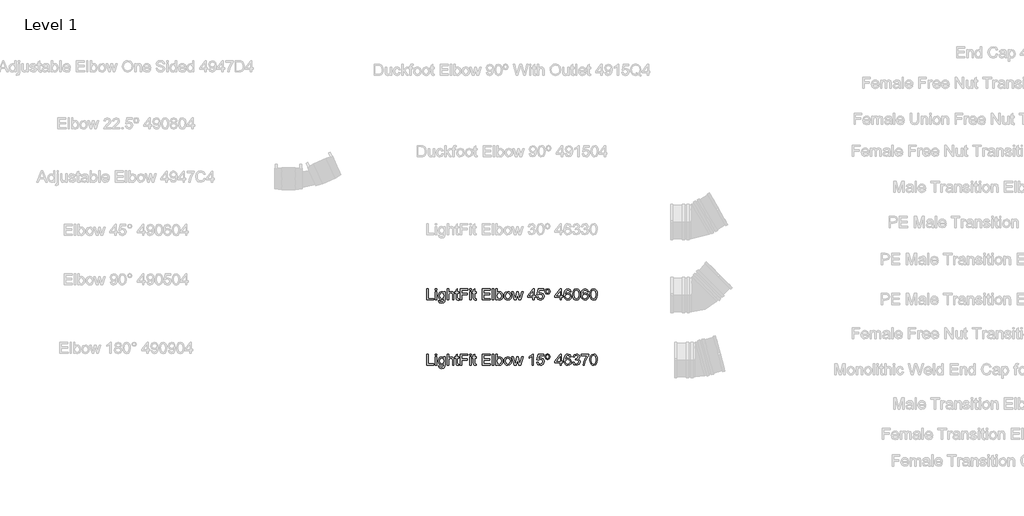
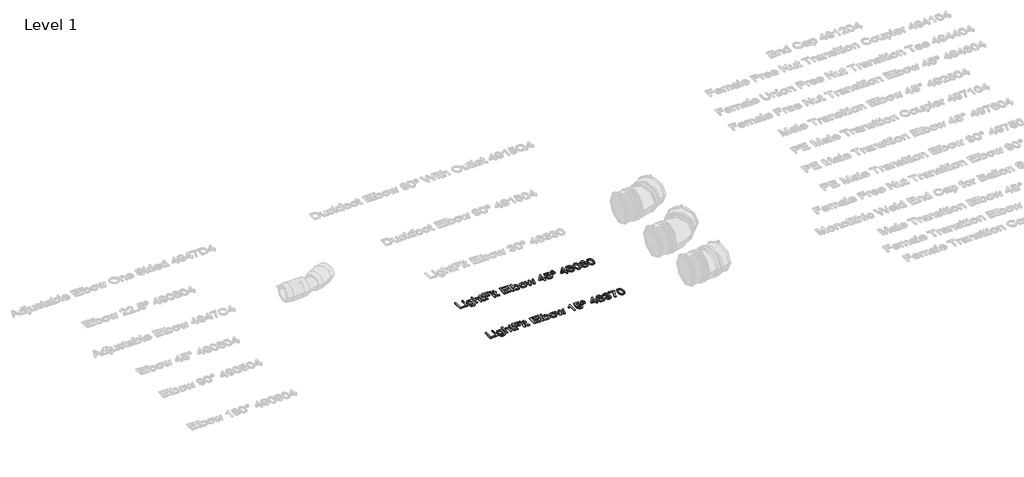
# One storey, part 12 of 38: 2 proxies.
"""IFC4 building model written with IfcOpenShell, lengths in millimetres."""

from ifc_helpers import new_model, si_unit, origin, origin_with_axes, place, context, project, spatial, polyline, outline, extrude, element, save

model = new_model("IFC4")

# Units and contexts
model_context = context("Model", 3, world=origin())
ifc_project = project(units=[si_unit("LENGTHUNIT", "METRE", prefix="MILLI")], contexts=[model_context])

# Site, building, storey
site = spatial("IfcSite", under=ifc_project)
building = spatial("IfcBuilding", under=site)
storey = spatial("IfcBuildingStorey", under=building, Name="Level 1", Elevation=0.0)

# Proxies
placement = place(None, origin())
element("IfcBuildingElementProxy", 1, Name="100 mm Arial", ObjectType="100 mm Arial", at=placement, inside=storey, context=model_context, shape_type="SweptSolid", body=[
    extrude(outline(polyline([(13240.3817727, 3808.5663925), (13240.3817727, 3867.6433156), (13247.766388, 3867.6433156), (13247.766388, 3815.9510079), (13277.3048496, 3815.9510079), (13277.3048496, 3808.5663925), (13240.3817727, 3808.5663925)])), origin_with_axes(), (0.0, 0.0, 1.0), 5.0),
    extrude(outline(polyline([(13284.689465, 3860.2587002), (13284.689465, 3867.6433156), (13292.0740804, 3867.6433156), (13292.0740804, 3860.2587002), (13284.689465, 3860.2587002)])), origin_with_axes(), (0.0, 0.0, 1.0), 5.0),
    extrude(outline(polyline([(13284.689465, 3808.5663925), (13284.689465, 3851.9510079), (13292.0740804, 3851.9510079), (13292.0740804, 3808.5663925), (13284.689465, 3808.5663925)])), origin_with_axes(), (0.0, 0.0, 1.0), 5.0),
    extrude(outline(polyline([(13301.3048496, 3804.8740849), (13308.689465, 3803.9510079), (13311.0836957, 3800.0567772), (13318.251965, 3798.4125464), (13325.8096573, 3800.2731233), (13329.4154265, 3805.4942772), (13329.9202342, 3814.1048541), (13318.3817727, 3808.5663925), (13310.7681909, 3810.1781714), (13305.0909073, 3815.0135079), (13300.3817727, 3830.4750464), (13302.4947534, 3841.9197579), (13308.610138, 3850.0183156), (13318.0211957, 3852.8740849), (13324.6089361, 3851.2587002), (13329.9202342, 3846.4125464), (13329.9202342, 3851.9510079), (13337.3048496, 3851.9510079), (13337.3048496, 3814.4942772), (13335.2856188, 3800.1505272), (13328.8889842, 3793.4798541), (13318.1077342, 3791.027931), (13305.8264842, 3794.4822579), (13301.3048496, 3804.8740849)]), holes=[polyline([(13307.766388, 3830.9798541), (13310.9178304, 3819.5495656), (13318.828888, 3815.9510079), (13326.7255227, 3819.527931), (13329.9202342, 3830.7635079), (13326.6317727, 3841.7755272), (13318.7135034, 3845.4894695), (13310.9610996, 3841.8332195), (13307.766388, 3830.9798541)])]), origin_with_axes(), (0.0, 0.0, 1.0), 5.0),
    extrude(outline(polyline([(13348.3817727, 3808.5663925), (13348.3817727, 3867.6433156), (13355.766388, 3867.6433156), (13355.766388, 3845.9221618), (13361.5248015, 3851.1361041), (13368.6173496, 3852.8740849), (13376.9106188, 3850.9774502), (13381.9442727, 3845.7346618), (13383.4586957, 3836.027931), (13383.4586957, 3808.5663925), (13376.0740804, 3808.5663925), (13376.0740804, 3835.2635079), (13373.7231188, 3843.0519695), (13367.0596573, 3845.4894695), (13361.0091765, 3843.8452387), (13356.970715, 3839.3885079), (13355.766388, 3831.6144695), (13355.766388, 3808.5663925), (13348.3817727, 3808.5663925)])), origin_with_axes(), (0.0, 0.0, 1.0), 5.0),
    extrude(outline(polyline([(13409.3048496, 3814.7250464), (13410.2279265, 3808.3500464), (13404.703888, 3807.6433156), (13398.516388, 3808.8692772), (13395.4298496, 3812.0856233), (13394.5356188, 3820.465431), (13394.5356188, 3844.5663925), (13388.9971573, 3844.5663925), (13388.9971573, 3851.9510079), (13394.5356188, 3851.9510079), (13394.5356188, 3862.4942772), (13401.9202342, 3866.8356233), (13401.9202342, 3851.9510079), (13409.3048496, 3851.9510079), (13409.3048496, 3844.5663925), (13401.9202342, 3844.5663925), (13401.9202342, 3820.6817772), (13402.3096573, 3816.8740849), (13403.5716765, 3815.5255272), (13406.0885034, 3815.027931), (13409.3048496, 3814.7250464)])), origin_with_axes(), (0.0, 0.0, 1.0), 5.0),
    extrude(outline(polyline([(13417.6125419, 3808.5663925), (13417.6125419, 3867.6433156), (13457.3048496, 3867.6433156), (13457.3048496, 3860.2587002), (13424.9971573, 3860.2587002), (13424.9971573, 3842.7202387), (13452.689465, 3842.7202387), (13452.689465, 3835.3356233), (13424.9971573, 3835.3356233), (13424.9971573, 3808.5663925), (13417.6125419, 3808.5663925)])), origin_with_axes(), (0.0, 0.0, 1.0), 5.0),
    extrude(outline(polyline([(13466.5356188, 3808.5663925), (13466.5356188, 3851.9510079), (13473.9202342, 3851.9510079), (13473.9202342, 3808.5663925), (13466.5356188, 3808.5663925)])), origin_with_axes(), (0.0, 0.0, 1.0), 5.0),
    extrude(outline(polyline([(13466.5356188, 3860.2587002), (13466.5356188, 3867.6433156), (13473.9202342, 3867.6433156), (13473.9202342, 3860.2587002), (13466.5356188, 3860.2587002)])), origin_with_axes(), (0.0, 0.0, 1.0), 5.0),
    extrude(outline(polyline([(13500.689465, 3814.7250464), (13501.6125419, 3808.3500464), (13496.0885034, 3807.6433156), (13489.9010034, 3808.8692772), (13486.814465, 3812.0856233), (13485.9202342, 3820.465431), (13485.9202342, 3844.5663925), (13480.3817727, 3844.5663925), (13480.3817727, 3851.9510079), (13485.9202342, 3851.9510079), (13485.9202342, 3862.4942772), (13493.3048496, 3866.8356233), (13493.3048496, 3851.9510079), (13500.689465, 3851.9510079), (13500.689465, 3844.5663925), (13493.3048496, 3844.5663925), (13493.3048496, 3820.6817772), (13493.6942727, 3816.8740849), (13494.9562919, 3815.5255272), (13497.4731188, 3815.027931), (13500.689465, 3814.7250464)])), origin_with_axes(), (0.0, 0.0, 1.0), 5.0),
    extrude(outline(polyline([(13532.0740804, 3808.5663925), (13532.0740804, 3867.6433156), (13574.5356188, 3867.6433156), (13574.5356188, 3860.2587002), (13539.4586957, 3860.2587002), (13539.4586957, 3842.7202387), (13572.689465, 3842.7202387), (13572.689465, 3835.3356233), (13539.4586957, 3835.3356233), (13539.4586957, 3815.9510079), (13575.4586957, 3815.9510079), (13575.4586957, 3808.5663925), (13532.0740804, 3808.5663925)])), origin_with_axes(), (0.0, 0.0, 1.0), 5.0),
    extrude(outline(polyline([(13585.6125419, 3808.5663925), (13585.6125419, 3867.6433156), (13592.9971573, 3867.6433156), (13592.9971573, 3808.5663925), (13585.6125419, 3808.5663925)])), origin_with_axes(), (0.0, 0.0, 1.0), 5.0),
    extrude(outline(polyline([(13611.4586957, 3808.5663925), (13604.0740804, 3808.5663925), (13604.0740804, 3867.6433156), (13611.4586957, 3867.6433156), (13611.4586957, 3845.7346618), (13616.6293688, 3851.0892291), (13623.0548496, 3852.8740849), (13630.453888, 3851.2659118), (13636.1942727, 3846.7442772), (13639.720715, 3839.7130272), (13640.9971573, 3830.9077387), (13639.6756429, 3821.0495656), (13635.7110996, 3813.715431), (13629.8931909, 3809.1613445), (13623.0115804, 3807.6433156), (13616.4454746, 3809.6012483), (13611.4586957, 3815.4750464), (13611.4586957, 3808.5663925)]), holes=[polyline([(13611.4586957, 3830.5615849), (13613.4779265, 3820.2346618), (13622.376965, 3815.027931), (13630.2808111, 3818.8644695), (13633.6125419, 3830.3019695), (13630.4178304, 3841.7827387), (13622.6942727, 3845.4894695), (13614.7904265, 3841.652931), (13611.4586957, 3830.5615849)])]), origin_with_axes(), (0.0, 0.0, 1.0), 5.0),
    extrude(outline(polyline([(13647.4586957, 3830.2587002), (13649.0560515, 3840.7190368), (13653.8481188, 3848.0712002), (13666.8577342, 3852.8740849), (13674.6155467, 3851.4119454), (13680.8120611, 3847.0255272), (13684.8739602, 3840.0609839), (13686.2279265, 3830.8644695), (13683.8336957, 3817.7250464), (13676.860138, 3810.2899502), (13666.8577342, 3807.6433156), (13659.0061717, 3809.1000464), (13652.8168688, 3813.4702387), (13648.798239, 3820.5808156), (13647.4586957, 3830.2587002)]), holes=[polyline([(13654.8433111, 3830.2731233), (13658.2615804, 3818.8284118), (13666.8577342, 3815.027931), (13675.4250419, 3818.8500464), (13678.8433111, 3830.5038925), (13675.4034073, 3841.6889887), (13666.8577342, 3845.4894695), (13658.2615804, 3841.7034118), (13654.8433111, 3830.2731233)])]), origin_with_axes(), (0.0, 0.0, 1.0), 5.0),
    extrude(outline(polyline([(13701.7327342, 3808.5663925), (13688.5356188, 3851.9510079), (13696.2086957, 3851.9510079), (13703.6942727, 3826.6385079), (13705.9298496, 3817.5952387), (13707.7615804, 3826.3067772), (13713.7183111, 3851.9510079), (13722.516388, 3851.9510079), (13728.4442727, 3826.3788925), (13730.0740804, 3818.4894695), (13732.4106188, 3826.8115849), (13739.9106188, 3851.9510079), (13747.6125419, 3851.9510079), (13734.314465, 3808.5663925), (13725.3865804, 3808.5663925), (13719.7183111, 3834.0087002), (13718.0740804, 3841.9413925), (13710.7615804, 3808.5663925), (13701.7327342, 3808.5663925)])), origin_with_axes(), (0.0, 0.0, 1.0), 5.0),
    extrude(outline(polyline([(13797.9202342, 3808.5663925), (13797.9202342, 3822.4125464), (13771.1510034, 3822.4125464), (13771.1510034, 3829.7971618), (13799.766388, 3866.7202387), (13805.3048496, 3866.7202387), (13805.3048496, 3829.7971618), (13812.689465, 3829.7971618), (13812.689465, 3822.4125464), (13805.3048496, 3822.4125464), (13805.3048496, 3808.5663925), (13797.9202342, 3808.5663925)]), holes=[polyline([(13797.9202342, 3829.7971618), (13797.9202342, 3852.6144695), (13780.2375419, 3829.7971618), (13797.9202342, 3829.7971618)])]), origin_with_axes(), (0.0, 0.0, 1.0), 5.0),
    extrude(outline(polyline([(13819.1510034, 3824.2587002), (13826.5356188, 3825.1817772), (13830.2567727, 3817.5736041), (13837.9731188, 3815.027931), (13847.2327342, 3818.5687964), (13850.5356188, 3827.965431), (13847.4418688, 3836.7346618), (13838.0885034, 3839.9510079), (13831.6053304, 3838.6673541), (13827.4586957, 3835.3356233), (13820.0740804, 3836.2587002), (13826.5356188, 3866.7202387), (13855.1510034, 3866.7202387), (13855.1510034, 3859.3356233), (13832.5067727, 3859.3356233), (13829.3481188, 3843.0663925), (13840.1510034, 3847.3356233), (13852.7784073, 3842.0423541), (13857.9202342, 3828.4269695), (13853.2904265, 3814.7250464), (13846.641388, 3809.4137483), (13837.9442727, 3807.6433156), (13824.9130227, 3812.1937964), (13819.1510034, 3824.2587002)])), origin_with_axes(), (0.0, 0.0, 1.0), 5.0),
    extrude(outline(polyline([(13875.9202342, 3868.5663925), (13885.5692727, 3864.5135079), (13889.3048496, 3853.3212002), (13885.547638, 3842.1577387), (13875.9635034, 3838.1048541), (13866.2928304, 3842.0784118), (13862.5356188, 3853.1481233), (13866.2711957, 3864.5135079), (13875.9202342, 3868.5663925)]), holes=[polyline([(13875.9202342, 3863.027931), (13871.5716765, 3860.7562964), (13869.9202342, 3853.3356233), (13871.6005227, 3845.9798541), (13875.9202342, 3843.6433156), (13880.2543688, 3845.9798541), (13881.9202342, 3853.5375464), (13880.2399457, 3860.7130272), (13875.9202342, 3863.027931)])]), origin_with_axes(), (0.0, 0.0, 1.0), 5.0),
    extrude(outline(polyline([(13941.9202342, 3808.5663925), (13941.9202342, 3822.4125464), (13915.1510034, 3822.4125464), (13915.1510034, 3829.7971618), (13943.766388, 3866.7202387), (13949.3048496, 3866.7202387), (13949.3048496, 3829.7971618), (13956.689465, 3829.7971618), (13956.689465, 3822.4125464), (13949.3048496, 3822.4125464), (13949.3048496, 3808.5663925), (13941.9202342, 3808.5663925)]), holes=[polyline([(13941.9202342, 3829.7971618), (13941.9202342, 3852.6144695), (13924.2375419, 3829.7971618), (13941.9202342, 3829.7971618)])]), origin_with_axes(), (0.0, 0.0, 1.0), 5.0),
    extrude(outline(polyline([(14000.9971573, 3851.9510079), (13993.6125419, 3851.027931), (13990.814465, 3857.1865849), (13983.4154265, 3860.2587002), (13976.751965, 3858.4702387), (13971.7110996, 3851.7562964), (13969.6125419, 3838.5952387), (13976.1245611, 3844.4870656), (13984.1942727, 3846.4125464), (13996.7423496, 3841.1481233), (14001.9202342, 3827.5471618), (13999.4827342, 3817.3572579), (13992.7760034, 3810.1457195), (13983.0981188, 3807.6433156), (13974.720114, 3809.3019695), (13968.047638, 3814.277931), (13963.6828544, 3823.0615849), (13962.2279265, 3836.1433156), (13963.8433111, 3850.8512483), (13968.689465, 3860.9077387), (13975.3060515, 3865.9594214), (13983.876965, 3867.6433156), (13995.5452342, 3863.4750464), (14000.9971573, 3851.9510079)]), holes=[polyline([(13969.6125419, 3827.6625464), (13971.3216765, 3821.2659118), (13975.8649457, 3816.621681), (13982.5211957, 3815.027931), (13991.2255227, 3818.3308156), (13994.5356188, 3827.3019695), (13991.2687919, 3835.8909118), (13982.2183111, 3839.027931), (13973.283215, 3835.8909118), (13969.6125419, 3827.6625464)])]), origin_with_axes(), (0.0, 0.0, 1.0), 5.0),
    extrude(outline(polyline([(14008.3817727, 3837.6288925), (14010.5524457, 3854.6264887), (14016.9995611, 3864.4269695), (14027.766388, 3867.6433156), (14036.391388, 3865.7394695), (14042.3481188, 3860.2514887), (14045.8096573, 3851.5111041), (14047.1510034, 3837.6288925), (14045.001965, 3820.7034118), (14038.5764842, 3810.8812964), (14027.766388, 3807.6433156), (14020.0933111, 3809.0495656), (14014.266388, 3813.2683156), (14009.8529265, 3823.2599022), (14008.3817727, 3837.6288925)]), holes=[polyline([(14015.766388, 3837.6433156), (14019.2279265, 3819.3043733), (14027.766388, 3815.027931), (14036.3048496, 3819.3187964), (14039.766388, 3837.6433156), (14036.4202342, 3855.7731233), (14027.6798496, 3860.2587002), (14019.3433111, 3856.3067772), (14015.766388, 3837.6433156)])]), origin_with_axes(), (0.0, 0.0, 1.0), 5.0),
    extrude(outline(polyline([(14091.4586957, 3851.9510079), (14084.0740804, 3851.027931), (14081.2760034, 3857.1865849), (14073.876965, 3860.2587002), (14067.2135034, 3858.4702387), (14062.172638, 3851.7562964), (14060.0740804, 3838.5952387), (14066.5860996, 3844.4870656), (14074.6558111, 3846.4125464), (14087.203888, 3841.1481233), (14092.3817727, 3827.5471618), (14089.9442727, 3817.3572579), (14083.2375419, 3810.1457195), (14073.5596573, 3807.6433156), (14065.1816525, 3809.3019695), (14058.5091765, 3814.277931), (14054.1443929, 3823.0615849), (14052.689465, 3836.1433156), (14054.3048496, 3850.8512483), (14059.1510034, 3860.9077387), (14065.76759, 3865.9594214), (14074.3385034, 3867.6433156), (14086.0067727, 3863.4750464), (14091.4586957, 3851.9510079)]), holes=[polyline([(14060.0740804, 3827.6625464), (14061.783215, 3821.2659118), (14066.3264842, 3816.621681), (14072.9827342, 3815.027931), (14081.6870611, 3818.3308156), (14084.9971573, 3827.3019695), (14081.7303304, 3835.8909118), (14072.6798496, 3839.027931), (14063.7447534, 3835.8909118), (14060.0740804, 3827.6625464)])]), origin_with_axes(), (0.0, 0.0, 1.0), 5.0),
    extrude(outline(polyline([(14098.8433111, 3837.6288925), (14101.0139842, 3854.6264887), (14107.4610996, 3864.4269695), (14118.2279265, 3867.6433156), (14126.8529265, 3865.7394695), (14132.8096573, 3860.2514887), (14136.2711957, 3851.5111041), (14137.6125419, 3837.6288925), (14135.4635034, 3820.7034118), (14129.0380227, 3810.8812964), (14118.2279265, 3807.6433156), (14110.5548496, 3809.0495656), (14104.7279265, 3813.2683156), (14100.314465, 3823.2599022), (14098.8433111, 3837.6288925)]), holes=[polyline([(14106.2279265, 3837.6433156), (14109.689465, 3819.3043733), (14118.2279265, 3815.027931), (14126.766388, 3819.3187964), (14130.2279265, 3837.6433156), (14126.8817727, 3855.7731233), (14118.141388, 3860.2587002), (14109.8048496, 3856.3067772), (14106.2279265, 3837.6433156)])]), origin_with_axes(), (0.0, 0.0, 1.0), 5.0),
])
element("IfcBuildingElementProxy", 2, Name="100 mm Arial", ObjectType="100 mm Arial", at=placement, inside=storey, context=model_context, shape_type="SweptSolid", body=[
    extrude(outline(polyline([(13240.3817727, 3465.3655791), (13240.3817727, 3524.4425021), (13247.766388, 3524.4425021), (13247.766388, 3472.7501944), (13277.3048496, 3472.7501944), (13277.3048496, 3465.3655791), (13240.3817727, 3465.3655791)])), origin_with_axes(), (0.0, 0.0, 1.0), 5.0),
    extrude(outline(polyline([(13284.689465, 3517.0578868), (13284.689465, 3524.4425021), (13292.0740804, 3524.4425021), (13292.0740804, 3517.0578868), (13284.689465, 3517.0578868)])), origin_with_axes(), (0.0, 0.0, 1.0), 5.0),
    extrude(outline(polyline([(13284.689465, 3465.3655791), (13284.689465, 3508.7501944), (13292.0740804, 3508.7501944), (13292.0740804, 3465.3655791), (13284.689465, 3465.3655791)])), origin_with_axes(), (0.0, 0.0, 1.0), 5.0),
    extrude(outline(polyline([(13301.3048496, 3461.6732714), (13308.689465, 3460.7501944), (13311.0836957, 3456.8559637), (13318.251965, 3455.2117329), (13325.8096573, 3457.0723098), (13329.4154265, 3462.2934637), (13329.9202342, 3470.9040406), (13318.3817727, 3465.3655791), (13310.7681909, 3466.9773579), (13305.0909073, 3471.8126944), (13300.3817727, 3487.2742329), (13302.4947534, 3498.7189444), (13308.610138, 3506.8175021), (13318.0211957, 3509.6732714), (13324.6089361, 3508.0578868), (13329.9202342, 3503.2117329), (13329.9202342, 3508.7501944), (13337.3048496, 3508.7501944), (13337.3048496, 3471.2934637), (13335.2856188, 3456.9497137), (13328.8889842, 3450.2790406), (13318.1077342, 3447.8271175), (13305.8264842, 3451.2814444), (13301.3048496, 3461.6732714)]), holes=[polyline([(13307.766388, 3487.7790406), (13310.9178304, 3476.3487521), (13318.828888, 3472.7501944), (13326.7255227, 3476.3271175), (13329.9202342, 3487.5626944), (13326.6317727, 3498.5747137), (13318.7135034, 3502.288656), (13310.9610996, 3498.632406), (13307.766388, 3487.7790406)])]), origin_with_axes(), (0.0, 0.0, 1.0), 5.0),
    extrude(outline(polyline([(13348.3817727, 3465.3655791), (13348.3817727, 3524.4425021), (13355.766388, 3524.4425021), (13355.766388, 3502.7213483), (13361.5248015, 3507.9352906), (13368.6173496, 3509.6732714), (13376.9106188, 3507.7766368), (13381.9442727, 3502.5338483), (13383.4586957, 3492.8271175), (13383.4586957, 3465.3655791), (13376.0740804, 3465.3655791), (13376.0740804, 3492.0626944), (13373.7231188, 3499.851156), (13367.0596573, 3502.288656), (13361.0091765, 3500.6444252), (13356.970715, 3496.1876944), (13355.766388, 3488.413656), (13355.766388, 3465.3655791), (13348.3817727, 3465.3655791)])), origin_with_axes(), (0.0, 0.0, 1.0), 5.0),
    extrude(outline(polyline([(13409.3048496, 3471.5242329), (13410.2279265, 3465.1492329), (13404.703888, 3464.4425021), (13398.516388, 3465.6684637), (13395.4298496, 3468.8848098), (13394.5356188, 3477.2646175), (13394.5356188, 3501.3655791), (13388.9971573, 3501.3655791), (13388.9971573, 3508.7501944), (13394.5356188, 3508.7501944), (13394.5356188, 3519.2934637), (13401.9202342, 3523.6348098), (13401.9202342, 3508.7501944), (13409.3048496, 3508.7501944), (13409.3048496, 3501.3655791), (13401.9202342, 3501.3655791), (13401.9202342, 3477.4809637), (13402.3096573, 3473.6732714), (13403.5716765, 3472.3247137), (13406.0885034, 3471.8271175), (13409.3048496, 3471.5242329)])), origin_with_axes(), (0.0, 0.0, 1.0), 5.0),
    extrude(outline(polyline([(13417.6125419, 3465.3655791), (13417.6125419, 3524.4425021), (13457.3048496, 3524.4425021), (13457.3048496, 3517.0578868), (13424.9971573, 3517.0578868), (13424.9971573, 3499.5194252), (13452.689465, 3499.5194252), (13452.689465, 3492.1348098), (13424.9971573, 3492.1348098), (13424.9971573, 3465.3655791), (13417.6125419, 3465.3655791)])), origin_with_axes(), (0.0, 0.0, 1.0), 5.0),
    extrude(outline(polyline([(13466.5356188, 3465.3655791), (13466.5356188, 3508.7501944), (13473.9202342, 3508.7501944), (13473.9202342, 3465.3655791), (13466.5356188, 3465.3655791)])), origin_with_axes(), (0.0, 0.0, 1.0), 5.0),
    extrude(outline(polyline([(13466.5356188, 3517.0578868), (13466.5356188, 3524.4425021), (13473.9202342, 3524.4425021), (13473.9202342, 3517.0578868), (13466.5356188, 3517.0578868)])), origin_with_axes(), (0.0, 0.0, 1.0), 5.0),
    extrude(outline(polyline([(13500.689465, 3471.5242329), (13501.6125419, 3465.1492329), (13496.0885034, 3464.4425021), (13489.9010034, 3465.6684637), (13486.814465, 3468.8848098), (13485.9202342, 3477.2646175), (13485.9202342, 3501.3655791), (13480.3817727, 3501.3655791), (13480.3817727, 3508.7501944), (13485.9202342, 3508.7501944), (13485.9202342, 3519.2934637), (13493.3048496, 3523.6348098), (13493.3048496, 3508.7501944), (13500.689465, 3508.7501944), (13500.689465, 3501.3655791), (13493.3048496, 3501.3655791), (13493.3048496, 3477.4809637), (13493.6942727, 3473.6732714), (13494.9562919, 3472.3247137), (13497.4731188, 3471.8271175), (13500.689465, 3471.5242329)])), origin_with_axes(), (0.0, 0.0, 1.0), 5.0),
    extrude(outline(polyline([(13532.0740804, 3465.3655791), (13532.0740804, 3524.4425021), (13574.5356188, 3524.4425021), (13574.5356188, 3517.0578868), (13539.4586957, 3517.0578868), (13539.4586957, 3499.5194252), (13572.689465, 3499.5194252), (13572.689465, 3492.1348098), (13539.4586957, 3492.1348098), (13539.4586957, 3472.7501944), (13575.4586957, 3472.7501944), (13575.4586957, 3465.3655791), (13532.0740804, 3465.3655791)])), origin_with_axes(), (0.0, 0.0, 1.0), 5.0),
    extrude(outline(polyline([(13585.6125419, 3465.3655791), (13585.6125419, 3524.4425021), (13592.9971573, 3524.4425021), (13592.9971573, 3465.3655791), (13585.6125419, 3465.3655791)])), origin_with_axes(), (0.0, 0.0, 1.0), 5.0),
    extrude(outline(polyline([(13611.4586957, 3465.3655791), (13604.0740804, 3465.3655791), (13604.0740804, 3524.4425021), (13611.4586957, 3524.4425021), (13611.4586957, 3502.5338483), (13616.6293688, 3507.8884156), (13623.0548496, 3509.6732714), (13630.453888, 3508.0650983), (13636.1942727, 3503.5434637), (13639.720715, 3496.5122137), (13640.9971573, 3487.7069252), (13639.6756429, 3477.8487521), (13635.7110996, 3470.5146175), (13629.8931909, 3465.960531), (13623.0115804, 3464.4425021), (13616.4454746, 3466.4004348), (13611.4586957, 3472.2742329), (13611.4586957, 3465.3655791)]), holes=[polyline([(13611.4586957, 3487.3607714), (13613.4779265, 3477.0338483), (13622.376965, 3471.8271175), (13630.2808111, 3475.663656), (13633.6125419, 3487.101156), (13630.4178304, 3498.5819252), (13622.6942727, 3502.288656), (13614.7904265, 3498.4521175), (13611.4586957, 3487.3607714)])]), origin_with_axes(), (0.0, 0.0, 1.0), 5.0),
    extrude(outline(polyline([(13647.4586957, 3487.0578868), (13649.0560515, 3497.5182233), (13653.8481188, 3504.8703868), (13666.8577342, 3509.6732714), (13674.6155467, 3508.2111319), (13680.8120611, 3503.8247137), (13684.8739602, 3496.8601704), (13686.2279265, 3487.663656), (13683.8336957, 3474.5242329), (13676.860138, 3467.0891368), (13666.8577342, 3464.4425021), (13659.0061717, 3465.8992329), (13652.8168688, 3470.2694252), (13648.798239, 3477.3800021), (13647.4586957, 3487.0578868)]), holes=[polyline([(13654.8433111, 3487.0723098), (13658.2615804, 3475.6275983), (13666.8577342, 3471.8271175), (13675.4250419, 3475.6492329), (13678.8433111, 3487.3030791), (13675.4034073, 3498.4881752), (13666.8577342, 3502.288656), (13658.2615804, 3498.5025983), (13654.8433111, 3487.0723098)])]), origin_with_axes(), (0.0, 0.0, 1.0), 5.0),
    extrude(outline(polyline([(13701.7327342, 3465.3655791), (13688.5356188, 3508.7501944), (13696.2086957, 3508.7501944), (13703.6942727, 3483.4376944), (13705.9298496, 3474.3944252), (13707.7615804, 3483.1059637), (13713.7183111, 3508.7501944), (13722.516388, 3508.7501944), (13728.4442727, 3483.1780791), (13730.0740804, 3475.288656), (13732.4106188, 3483.6107714), (13739.9106188, 3508.7501944), (13747.6125419, 3508.7501944), (13734.314465, 3465.3655791), (13725.3865804, 3465.3655791), (13719.7183111, 3490.8078868), (13718.0740804, 3498.7405791), (13710.7615804, 3465.3655791), (13701.7327342, 3465.3655791)])), origin_with_axes(), (0.0, 0.0, 1.0), 5.0),
    extrude(outline(polyline([(13801.6125419, 3465.3655791), (13794.2279265, 3465.3655791), (13794.2279265, 3511.4040406), (13787.2327342, 3506.4208675), (13779.4586957, 3502.6925021), (13779.4586957, 3509.6732714), (13790.283215, 3516.5819252), (13796.8529265, 3524.4425021), (13801.6125419, 3524.4425021), (13801.6125419, 3465.3655791)])), origin_with_axes(), (0.0, 0.0, 1.0), 5.0),
    extrude(outline(polyline([(13819.1510034, 3481.0578868), (13826.5356188, 3481.9809637), (13830.2567727, 3474.3727906), (13837.9731188, 3471.8271175), (13847.2327342, 3475.3679829), (13850.5356188, 3484.7646175), (13847.4418688, 3493.5338483), (13838.0885034, 3496.7501944), (13831.6053304, 3495.4665406), (13827.4586957, 3492.1348098), (13820.0740804, 3493.0578868), (13826.5356188, 3523.5194252), (13855.1510034, 3523.5194252), (13855.1510034, 3516.1348098), (13832.5067727, 3516.1348098), (13829.3481188, 3499.8655791), (13840.1510034, 3504.1348098), (13852.7784073, 3498.8415406), (13857.9202342, 3485.226156), (13853.2904265, 3471.5242329), (13846.641388, 3466.2129348), (13837.9442727, 3464.4425021), (13824.9130227, 3468.9929829), (13819.1510034, 3481.0578868)])), origin_with_axes(), (0.0, 0.0, 1.0), 5.0),
    extrude(outline(polyline([(13875.9202342, 3525.3655791), (13885.5692727, 3521.3126944), (13889.3048496, 3510.1203868), (13885.547638, 3498.9569252), (13875.9635034, 3494.9040406), (13866.2928304, 3498.8775983), (13862.5356188, 3509.9473098), (13866.2711957, 3521.3126944), (13875.9202342, 3525.3655791)]), holes=[polyline([(13875.9202342, 3519.8271175), (13871.5716765, 3517.5554829), (13869.9202342, 3510.1348098), (13871.6005227, 3502.7790406), (13875.9202342, 3500.4425021), (13880.2543688, 3502.7790406), (13881.9202342, 3510.3367329), (13880.2399457, 3517.5122137), (13875.9202342, 3519.8271175)])]), origin_with_axes(), (0.0, 0.0, 1.0), 5.0),
    extrude(outline(polyline([(13941.9202342, 3465.3655791), (13941.9202342, 3479.2117329), (13915.1510034, 3479.2117329), (13915.1510034, 3486.5963483), (13943.766388, 3523.5194252), (13949.3048496, 3523.5194252), (13949.3048496, 3486.5963483), (13956.689465, 3486.5963483), (13956.689465, 3479.2117329), (13949.3048496, 3479.2117329), (13949.3048496, 3465.3655791), (13941.9202342, 3465.3655791)]), holes=[polyline([(13941.9202342, 3486.5963483), (13941.9202342, 3509.413656), (13924.2375419, 3486.5963483), (13941.9202342, 3486.5963483)])]), origin_with_axes(), (0.0, 0.0, 1.0), 5.0),
    extrude(outline(polyline([(14000.9971573, 3508.7501944), (13993.6125419, 3507.8271175), (13990.814465, 3513.9857714), (13983.4154265, 3517.0578868), (13976.751965, 3515.2694252), (13971.7110996, 3508.5554829), (13969.6125419, 3495.3944252), (13976.1245611, 3501.2862521), (13984.1942727, 3503.2117329), (13996.7423496, 3497.9473098), (14001.9202342, 3484.3463483), (13999.4827342, 3474.1564444), (13992.7760034, 3466.944906), (13983.0981188, 3464.4425021), (13974.720114, 3466.101156), (13968.047638, 3471.0771175), (13963.6828544, 3479.8607714), (13962.2279265, 3492.9425021), (13963.8433111, 3507.6504348), (13968.689465, 3517.7069252), (13975.3060515, 3522.7586079), (13983.876965, 3524.4425021), (13995.5452342, 3520.2742329), (14000.9971573, 3508.7501944)]), holes=[polyline([(13969.6125419, 3484.4617329), (13971.3216765, 3478.0650983), (13975.8649457, 3473.4208675), (13982.5211957, 3471.8271175), (13991.2255227, 3475.1300021), (13994.5356188, 3484.101156), (13991.2687919, 3492.6900983), (13982.2183111, 3495.8271175), (13973.283215, 3492.6900983), (13969.6125419, 3484.4617329)])]), origin_with_axes(), (0.0, 0.0, 1.0), 5.0),
    extrude(outline(polyline([(14008.3817727, 3481.0578868), (14015.766388, 3481.9809637), (14019.8409073, 3474.2069252), (14027.4635034, 3471.8271175), (14036.4346573, 3475.101156), (14039.766388, 3483.2069252), (14036.4635034, 3490.8439444), (14028.0692727, 3493.8655791), (14022.891388, 3493.0578868), (14023.7135034, 3500.4425021), (14033.2760034, 3502.476156), (14036.9971573, 3508.9953868), (14034.3000419, 3514.7718291), (14027.3481188, 3517.0578868), (14020.3096573, 3514.7501944), (14016.689465, 3507.8271175), (14009.3048496, 3508.7501944), (14015.3481188, 3520.3319252), (14027.0885034, 3524.4425021), (14035.9947534, 3522.4160598), (14042.2255227, 3516.8775983), (14044.3817727, 3509.4280791), (14042.3336957, 3502.6203868), (14036.2760034, 3497.7309637), (14044.3240804, 3492.6828868), (14047.1510034, 3483.0771175), (14041.4971573, 3469.8655791), (14027.203888, 3464.4425021), (14014.251965, 3469.0723098), (14008.3817727, 3481.0578868)])), origin_with_axes(), (0.0, 0.0, 1.0), 5.0),
    extrude(outline(polyline([(14053.6125419, 3516.1348098), (14053.6125419, 3523.5194252), (14092.3817727, 3523.5194252), (14092.3817727, 3517.5482714), (14081.3841765, 3501.6612521), (14072.9683111, 3481.4184637), (14070.2279265, 3465.3655791), (14062.8433111, 3465.3655791), (14065.7784073, 3482.0242329), (14073.8336957, 3500.8535598), (14084.9971573, 3516.1348098), (14053.6125419, 3516.1348098)])), origin_with_axes(), (0.0, 0.0, 1.0), 5.0),
    extrude(outline(polyline([(14098.8433111, 3494.4280791), (14101.0139842, 3511.4256752), (14107.4610996, 3521.226156), (14118.2279265, 3524.4425021), (14126.8529265, 3522.538656), (14132.8096573, 3517.0506752), (14136.2711957, 3508.3102906), (14137.6125419, 3494.4280791), (14135.4635034, 3477.5025983), (14129.0380227, 3467.6804829), (14118.2279265, 3464.4425021), (14110.5548496, 3465.8487521), (14104.7279265, 3470.0675021), (14100.314465, 3480.0590887), (14098.8433111, 3494.4280791)]), holes=[polyline([(14106.2279265, 3494.4425021), (14109.689465, 3476.1035598), (14118.2279265, 3471.8271175), (14126.766388, 3476.1179829), (14130.2279265, 3494.4425021), (14126.8817727, 3512.5723098), (14118.141388, 3517.0578868), (14109.8048496, 3513.1059637), (14106.2279265, 3494.4425021)])]), origin_with_axes(), (0.0, 0.0, 1.0), 5.0),
])

save(model, "model.ifc")
